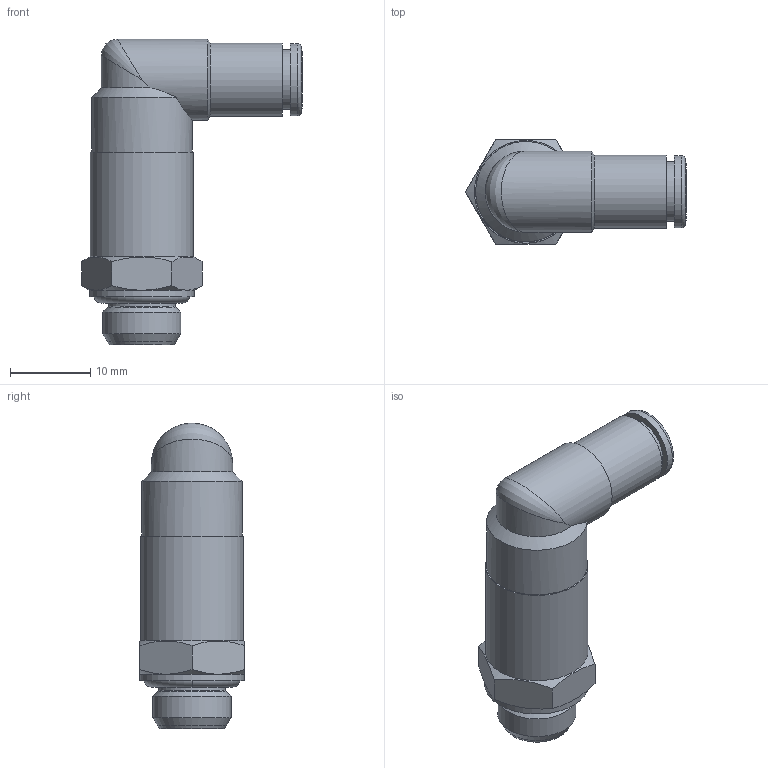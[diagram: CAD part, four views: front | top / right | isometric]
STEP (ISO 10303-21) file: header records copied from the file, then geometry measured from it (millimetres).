
FILE_DESCRIPTION(('Bauteilbeschreibung','HiCAD-Model','HiCAD-STEP-TRANSLATION','Bauteilbeschreibung'),'2;1');
FILE_NAME('B:/ABGLEICH/ZEICHNUNGEN/STEP FÜR INTERNET/STEP/IPSO 026/202601_IPSO_026_4_1-8.STP','2012-02-14T15:49:54+00:00',('Konstrukteur'),('Konstrukteur Firma GmbH'),' HiCAD neXt 2008, Step 3.1.1401.2J ','HiCAD neXt 2008','confidential');
FILE_SCHEMA(('AUTOMOTIVE_DESIGN { 1 2 10303 214 0 1 1 1 }'));
Length unit declared in the file: millimetre
Products named in the file (7): A02601_IPSO_026_4_1_8; OR 7_2X1_9; DR4_1_NEU; R202201_N2; A14612_N2; A146120N2; G 1_8
Assembly tree (6 placements, depth 3):
  A02601_IPSO_026_4_1_8
    OR 7_2X1_9
    DR4_1_NEU
    R202201_N2
    A14612_N2
    A146120N2
      G 1_8
Bounding box: 27.51 x 13 x 38.05 mm (x, y, z)
Volume: 3932 mm3; surface area: 4275.4 mm2
Topology: 5 solids, 5 shells, 78 faces, 168 edges, 100 vertices
Faces by surface type: cone 27, cylinder 24, plane 19, torus 7, bspline 1
Full cylindrical faces by diameter (mm): 3 x1, 4.1 x2, 5.5 x1, 6 x1, 6.4 x1, 7.3 x1, 7.4 x1, 7.6 x1, 8.3 x1, 8.566 x2, 9 x3, 9.1 x1, 9.728 x1, 10.1 x3, 12.5 x1, 12.8 x1, 13 x1
Entity records: 3587 total; most frequent: CARTESIAN_POINT 1553, DIRECTION 332, ORIENTED_EDGE 208, AXIS2_PLACEMENT_3D 163, EDGE_LOOP 137, EDGE_CURVE 104, COLOUR_RGB 95, PRESENTATION_STYLE_ASSIGNMENT 95
